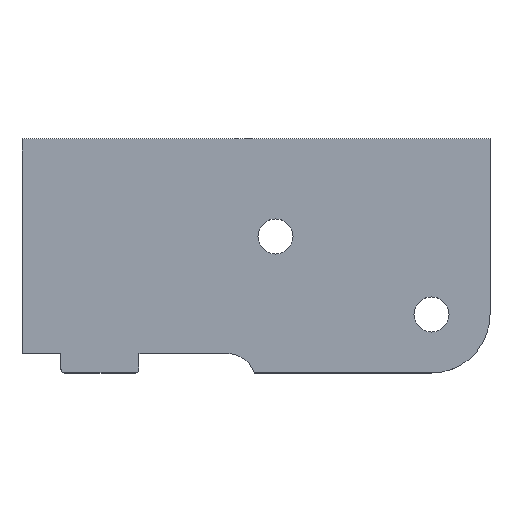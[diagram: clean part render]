
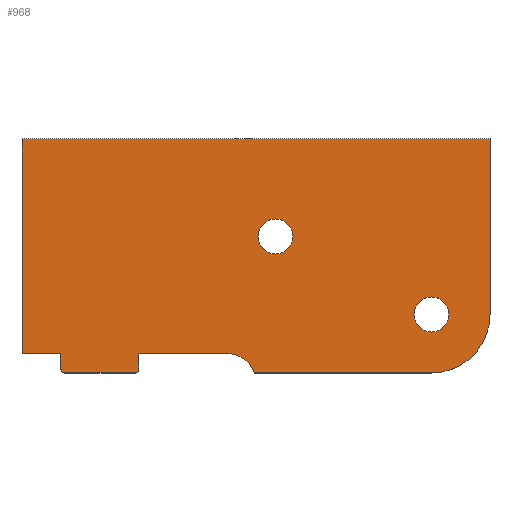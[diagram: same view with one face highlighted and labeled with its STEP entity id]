
A CAD part, top view. The second image highlights one B-rep face of the part: STEP entity #968.
In plain terms, the highlighted planar face has unit normal (0, 0, 1).
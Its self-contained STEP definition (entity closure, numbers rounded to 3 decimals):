
#453=CIRCLE('',#919,1.);
#455=CIRCLE('',#923,1.);
#457=CIRCLE('',#931,15.);
#458=CIRCLE('',#934,7.5);
#460=CIRCLE('',#937,4.5);
#461=CIRCLE('',#938,4.5);
#518=ORIENTED_EDGE('',*,*,#651,.T.);
#519=ORIENTED_EDGE('',*,*,#685,.F.);
#520=ORIENTED_EDGE('',*,*,#682,.T.);
#521=ORIENTED_EDGE('',*,*,#681,.F.);
#522=ORIENTED_EDGE('',*,*,#678,.T.);
#523=ORIENTED_EDGE('',*,*,#675,.T.);
#524=ORIENTED_EDGE('',*,*,#672,.T.);
#525=ORIENTED_EDGE('',*,*,#669,.T.);
#526=ORIENTED_EDGE('',*,*,#666,.F.);
#527=ORIENTED_EDGE('',*,*,#663,.F.);
#528=ORIENTED_EDGE('',*,*,#660,.F.);
#529=ORIENTED_EDGE('',*,*,#657,.T.);
#530=ORIENTED_EDGE('',*,*,#654,.F.);
#531=ORIENTED_EDGE('',*,*,#686,.F.);
#532=ORIENTED_EDGE('',*,*,#687,.F.);
#559=VECTOR('',#742,1.);
#563=VECTOR('',#754,1.);
#567=VECTOR('',#766,1.);
#570=VECTOR('',#771,1.);
#573=VECTOR('',#776,1.);
#576=VECTOR('',#781,1.);
#579=VECTOR('',#786,1.);
#583=VECTOR('',#798,1.);
#585=VECTOR('',#808,1.);
#590=LINE('',#834,#559);
#594=LINE('',#846,#563);
#598=LINE('',#858,#567);
#601=LINE('',#864,#570);
#604=LINE('',#870,#573);
#607=LINE('',#876,#576);
#610=LINE('',#882,#579);
#614=LINE('',#894,#583);
#616=LINE('',#902,#585);
#619=VERTEX_POINT('',#828);
#621=VERTEX_POINT('',#832);
#623=VERTEX_POINT('',#837);
#625=VERTEX_POINT('',#843);
#627=VERTEX_POINT('',#849);
#629=VERTEX_POINT('',#855);
#631=VERTEX_POINT('',#861);
#633=VERTEX_POINT('',#867);
#635=VERTEX_POINT('',#873);
#637=VERTEX_POINT('',#879);
#639=VERTEX_POINT('',#885);
#641=VERTEX_POINT('',#891);
#642=VERTEX_POINT('',#896);
#644=VERTEX_POINT('',#903);
#645=VERTEX_POINT('',#905);
#651=EDGE_CURVE('',#619,#621,#590,.T.);
#654=EDGE_CURVE('',#619,#623,#453,.T.);
#657=EDGE_CURVE('',#625,#623,#594,.T.);
#660=EDGE_CURVE('',#625,#627,#455,.T.);
#663=EDGE_CURVE('',#627,#629,#598,.T.);
#666=EDGE_CURVE('',#629,#631,#601,.T.);
#669=EDGE_CURVE('',#633,#631,#604,.T.);
#672=EDGE_CURVE('',#635,#633,#607,.T.);
#675=EDGE_CURVE('',#637,#635,#610,.T.);
#678=EDGE_CURVE('',#639,#637,#457,.T.);
#681=EDGE_CURVE('',#639,#641,#614,.T.);
#682=EDGE_CURVE('',#642,#641,#458,.T.);
#685=EDGE_CURVE('',#642,#621,#616,.T.);
#686=EDGE_CURVE('',#644,#644,#460,.T.);
#687=EDGE_CURVE('',#645,#645,#461,.T.);
#703=EDGE_LOOP('',(#518,#519,#520,#521,#522,#523,#524,#525,#526,#527,#528,
#529,#530));
#704=EDGE_LOOP('',(#531));
#705=EDGE_LOOP('',(#532));
#726=FACE_BOUND('',#703,.T.);
#727=FACE_BOUND('',#704,.T.);
#728=FACE_BOUND('',#705,.T.);
#742=DIRECTION('',(0.,4.,0.));
#748=DIRECTION('',(0.,0.,-1.));
#749=DIRECTION('',(0.,-1.,0.));
#754=DIRECTION('',(18.,0.,0.));
#760=DIRECTION('',(0.,0.,-1.));
#761=DIRECTION('',(0.,-1.,0.));
#766=DIRECTION('',(0.,4.,0.));
#771=DIRECTION('',(-10.,0.,0.));
#776=DIRECTION('',(0.,-55.,0.));
#781=DIRECTION('',(-120.,0.,0.));
#786=DIRECTION('',(0.,45.,0.));
#792=DIRECTION('',(0.,0.,1.));
#793=DIRECTION('',(0.,15.,0.));
#798=DIRECTION('',(-45.429,0.,0.));
#801=DIRECTION('',(0.,0.,-1.));
#802=DIRECTION('',(4.819,5.747,0.));
#806=DIRECTION('',(0.,0.,1.));
#807=DIRECTION('',(0.,-1.,0.));
#808=DIRECTION('',(-22.5,0.,0.));
#809=DIRECTION('',(0.,0.,1.));
#810=DIRECTION('',(0.,-4.5,0.));
#811=DIRECTION('',(0.,0.,1.));
#812=DIRECTION('',(0.,-4.5,0.));
#828=CARTESIAN_POINT('',(6914.504,13787.361,8.));
#832=CARTESIAN_POINT('',(6914.504,13791.361,8.));
#834=CARTESIAN_POINT('',(6914.504,13787.361,8.));
#837=CARTESIAN_POINT('',(6913.504,13786.361,8.));
#840=CARTESIAN_POINT('',(6913.504,13787.361,8.));
#843=CARTESIAN_POINT('',(6895.504,13786.361,8.));
#846=CARTESIAN_POINT('',(6895.504,13786.361,8.));
#849=CARTESIAN_POINT('',(6894.504,13787.361,8.));
#852=CARTESIAN_POINT('',(6895.504,13787.361,8.));
#855=CARTESIAN_POINT('',(6894.504,13791.361,8.));
#858=CARTESIAN_POINT('',(6894.504,13787.361,8.));
#861=CARTESIAN_POINT('',(6884.504,13791.361,8.));
#864=CARTESIAN_POINT('',(6894.504,13791.361,8.));
#867=CARTESIAN_POINT('',(6884.504,13846.36,8.));
#870=CARTESIAN_POINT('',(6884.504,13846.36,8.));
#873=CARTESIAN_POINT('',(7004.504,13846.36,8.));
#876=CARTESIAN_POINT('',(7004.504,13846.36,8.));
#879=CARTESIAN_POINT('',(7004.504,13801.36,8.));
#882=CARTESIAN_POINT('',(7004.504,13801.36,8.));
#885=CARTESIAN_POINT('',(6989.504,13786.36,8.));
#888=CARTESIAN_POINT('',(6989.504,13801.36,8.));
#891=CARTESIAN_POINT('',(6944.075,13786.36,8.));
#894=CARTESIAN_POINT('',(6989.504,13786.36,8.));
#896=CARTESIAN_POINT('',(6937.003,13791.361,8.));
#897=CARTESIAN_POINT('',(6937.004,13783.861,8.));
#901=CARTESIAN_POINT('',(0.,0.,8.));
#902=CARTESIAN_POINT('',(6937.003,13791.361,8.));
#903=CARTESIAN_POINT('',(6989.504,13796.86,8.));
#904=CARTESIAN_POINT('',(6989.504,13801.36,8.));
#905=CARTESIAN_POINT('',(6949.504,13816.86,8.));
#906=CARTESIAN_POINT('',(6949.504,13821.36,8.));
#919=AXIS2_PLACEMENT_3D('',#840,#748,#749);
#923=AXIS2_PLACEMENT_3D('',#852,#760,#761);
#931=AXIS2_PLACEMENT_3D('',#888,#792,#793);
#934=AXIS2_PLACEMENT_3D('',#897,#801,#802);
#936=AXIS2_PLACEMENT_3D('',#901,#806,#807);
#937=AXIS2_PLACEMENT_3D('',#904,#809,#810);
#938=AXIS2_PLACEMENT_3D('',#906,#811,#812);
#953=PLANE('',#936);
#968=ADVANCED_FACE('',(#726,#727,#728),#953,.T.);
